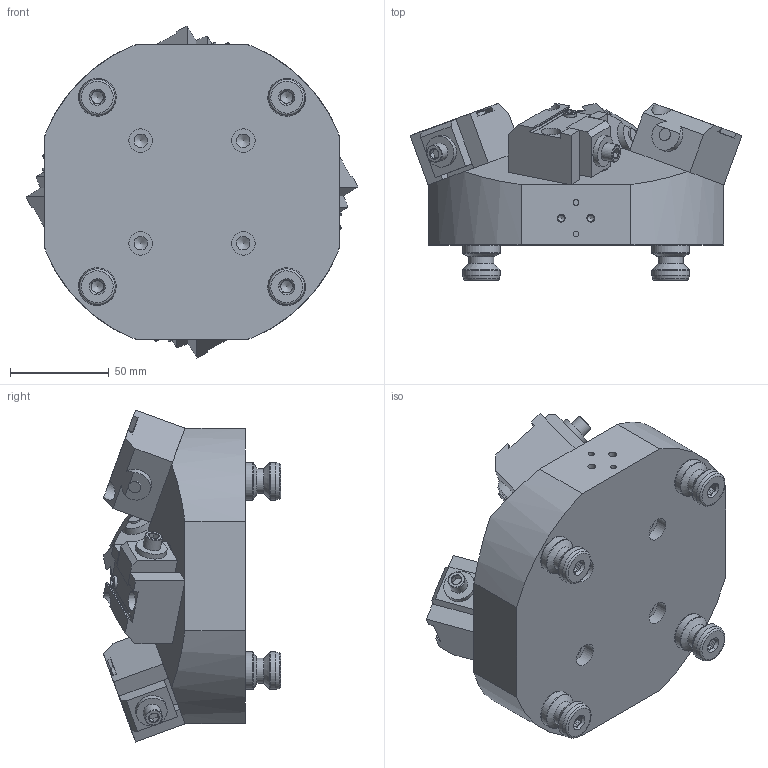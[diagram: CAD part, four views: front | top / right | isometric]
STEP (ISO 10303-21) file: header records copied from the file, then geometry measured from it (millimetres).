
FILE_DESCRIPTION (( 'STEP AP214' ), '1' );
FILE_NAME ('A96-P4D115_WEBSITE.STEP', '2025-08-11T13:24:21', ( '' ), ( '' ), 'SwSTEP 2.0', 'SolidWorks 2025', '' );
FILE_SCHEMA (( 'AUTOMOTIVE_DESIGN' ));
Length unit declared in the file: inch
Products named in the file (12): D_LP250_WEBSITE; D_PS20F_WEBSITE; D_91390A162_ALLOY STEEL CUP POINT SET SCREW_WEBSITE; D_HW.73072_WEBSITE; D_CDS25_WEBSITE_MILL OP2; D_91251A441_BLACK-OXIDE ALLOY STEEL SOCKET HEAD CAP SCREW_WEBSITE_91251A441; A96-P4D115_WEBSITE; D_AU-P4D115-1_WEBSITE_ER COLLET FIXTURE PYRAMID; D_D115_WEBSITE_Owner''s Manual Explosion; D_HW.0250.FW_WEBSITE; D_PS20F_WEBSITE_HARD TURN; D_D115-1_WEBSITE
Assembly tree (20 placements, depth 3):
  A96-P4D115_WEBSITE
    D_AU-P4D115-1_WEBSITE_ER COLLET FIXTURE PYRAMID
    D_D115_WEBSITE_Owner''s Manual Explosion  x4
      D_D115-1_WEBSITE
      D_LP250_WEBSITE
      D_CDS25_WEBSITE_MILL OP2
      D_HW.0250.FW_WEBSITE
      D_HW.73072_WEBSITE
      D_91251A441_BLACK-OXIDE ALLOY STEEL SOCKET HEAD CAP SCREW_WEBSITE_91251A441
    D_PS20F_WEBSITE  x4
      D_PS20F_WEBSITE_HARD TURN
      D_91390A162_ALLOY STEEL CUP POINT SET SCREW_WEBSITE
Bounding box: 168.3 x 89.87 x 168.3 mm (x, y, z)
Volume: 917073.7 mm3; surface area: 151699.9 mm2
Topology: 45 solids, 45 shells, 1066 faces, 2280 edges, 1410 vertices
Faces by surface type: plane 592, cone 232, cylinder 214, torus 28
Full cylindrical faces by diameter (mm): 3.03 x4, 3.3 x2, 3.759 x12, 4 x2, 4.039 x8, 5 x2, 5.41 x20, 6.147 x4, 6.35 x24, 6.365 x12, 6.375 x16, 6.756 x12, 6.8 x4, 7.144 x4, 8 x4, 8.5 x8, 8.89 x4, 9.525 x8, 10 x4, 10.033 x8, 12.017 x4, 12.497 x4, 12.69 x4, 12.738 x8, 15.875 x4, 16.02 x4, 16.297 x4, 19.012 x8, 20.277 x4
Entity records: 9315 total; most frequent: CARTESIAN_POINT 1545, DIRECTION 1409, ORIENTED_EDGE 994, AXIS2_PLACEMENT_3D 604, EDGE_LOOP 537, EDGE_CURVE 497, FACE_OUTER_BOUND 424, VERTEX_POINT 384
